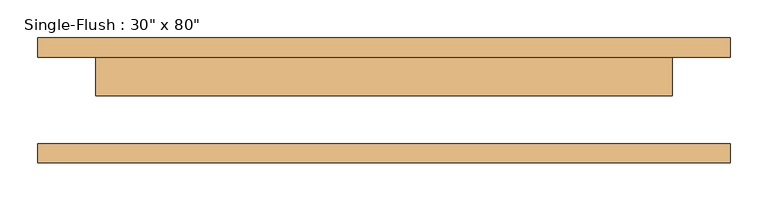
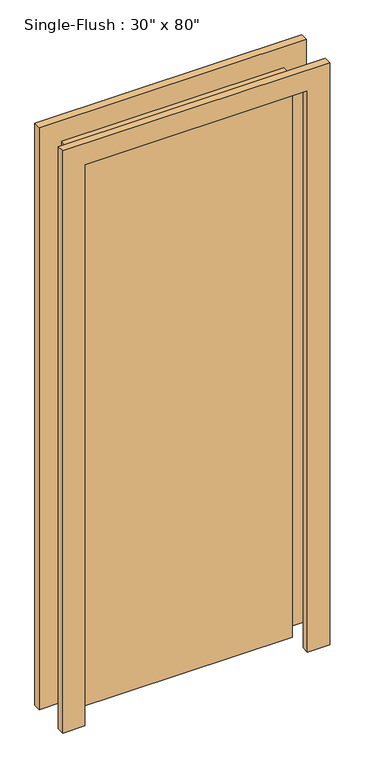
"""IFC4 building model written with IfcOpenShell, lengths in millimetres: door geometry."""

import ifcopenshell
import ifcopenshell.guid

model = None  # the IFC model being written
_history = None  # IfcOwnerHistory: only IFC2X3 demands one
_inside = {}  # id of a spatial element -> (the spatial element, [elements in it])
_under = {}  # id of a project, library or spatial element -> (it, [spatial elements below it])
_declared = {}  # id of a project -> (the project, [libraries it declares])
_typed = {}  # id of a type object -> (the type object, [elements of that type])
_made_of = {}  # id of a material, layer set ... -> (it, [elements and type objects made of it])


def new_model(schema):
    """Start an empty IFC model of exactly this schema.

    Asked for "IFC4X3", IfcOpenShell would pick the latest addendum, in which some entities
    have other attributes; the version numbers below select the first issue.
    IFC2X3 requires an IfcOwnerHistory on every rooted entity: one is made here for all.
    """
    global model, _history
    if schema == "IFC4X3":
        model = ifcopenshell.file(schema_version=(4, 3, 0, 0))
    else:
        model = ifcopenshell.file(schema=schema)
    _inside.clear()
    _under.clear()
    _declared.clear()
    _typed.clear()
    _made_of.clear()
    _history = None
    if model.schema == "IFC2X3":
        org = make("IfcOrganization", Name="unknown")
        user = make(
            "IfcPersonAndOrganization",
            ThePerson=make("IfcPerson", FamilyName="unknown"),
            TheOrganization=org,
        )
        app = make(
            "IfcApplication",
            ApplicationDeveloper=org,
            Version="unknown",
            ApplicationFullName="unknown",
            ApplicationIdentifier="unknown",
        )
        _history = make(
            "IfcOwnerHistory",
            OwningUser=user,
            OwningApplication=app,
            ChangeAction="ADDED",
            CreationDate=0,
        )
    return model


def make(cls, **values):
    """One entity of the class cls with the attributes given. An attribute that is None is left unset."""
    return model.create_entity(
        cls, **{name: value for name, value in values.items() if value is not None}
    )


def rooted(cls, **values):
    """An entity with a GlobalId (a new one), such as an element, a storey or a relation."""
    return make(cls, GlobalId=ifcopenshell.guid.new(), OwnerHistory=_history, **values)


def si_unit(unit_type, name, prefix=None):
    """IfcSIUnit, for example si_unit("LENGTHUNIT", "METRE", prefix="MILLI")."""
    return make("IfcSIUnit", UnitType=unit_type, Prefix=prefix, Name=name)


def assignment(units):
    """IfcUnitAssignment: the units of a project."""
    return None if units is None else make("IfcUnitAssignment", Units=units)


def point(xyz):
    """IfcCartesianPoint."""
    return None if xyz is None else make("IfcCartesianPoint", Coordinates=xyz)


def direction(xyz):
    """IfcDirection."""
    return None if xyz is None else make("IfcDirection", DirectionRatios=xyz)


def frame(location, z_axis=None, x_axis=None):
    """IfcAxis2Placement3D, a coordinate frame: its origin and axes. An axis left out is left unset."""
    return make(
        "IfcAxis2Placement3D",
        Location=point(location),
        Axis=direction(z_axis),
        RefDirection=direction(x_axis),
    )


def origin():
    """The frame at (0, 0, 0) with its axes left unset."""
    return frame((0.0, 0.0, 0.0))


def origin_with_axes():
    """The frame at (0, 0, 0) with the z axis (0, 0, 1) and the x axis (1, 0, 0) written out."""
    return frame((0.0, 0.0, 0.0), z_axis=(0.0, 0.0, 1.0), x_axis=(1.0, 0.0, 0.0))


def place(relative_to, where):
    """IfcLocalPlacement: puts the frame where relative to a parent placement (None: the world)."""
    return make(
        "IfcLocalPlacement", PlacementRelTo=relative_to, RelativePlacement=where
    )


def context(
    kind, dimensions, precision=None, world=None, true_north=None, identifier=None
):
    """IfcGeometricRepresentationContext, for example the 3D "Model" context."""
    return make(
        "IfcGeometricRepresentationContext",
        ContextIdentifier=identifier,
        ContextType=kind,
        CoordinateSpaceDimension=dimensions,
        Precision=precision,
        WorldCoordinateSystem=world,
        TrueNorth=true_north,
    )


def project(units=None, contexts=None):
    """IfcProject with its units and contexts."""
    return rooted(
        "IfcProject",
        Name="project",
        RepresentationContexts=contexts,
        UnitsInContext=assignment(units),
    )


def spatial(cls, under=None, at=None, **own):
    """A site, building, storey or space (cls), placed at a placement, below another one or the project."""
    s = rooted(cls, ObjectPlacement=at, **own)
    if under is not None:
        _under.setdefault(under.id(), (under, []))[1].append(s)
    return s


def polyline(points):
    """IfcPolyline through the points."""
    return make("IfcPolyline", Points=[point(p) for p in points])


def outline(outer, holes=None, kind="AREA"):
    """IfcArbitraryClosedProfileDef: a profile drawn as a closed curve; with holes, ...WithVoids."""
    if holes is None:
        return make("IfcArbitraryClosedProfileDef", ProfileType=kind, OuterCurve=outer)
    return make(
        "IfcArbitraryProfileDefWithVoids",
        ProfileType=kind,
        OuterCurve=outer,
        InnerCurves=holes,
    )


def extrude(swept, where, along, depth):
    """IfcExtrudedAreaSolid: the profile swept, set in the frame where, extruded along a direction by depth."""
    return make(
        "IfcExtrudedAreaSolid",
        SweptArea=swept,
        Position=where,
        ExtrudedDirection=direction(along),
        Depth=depth,
    )


def shape(context_of_items, identifier, shape_type, items):
    """IfcShapeRepresentation: the items that make up one representation, for example the "Body"."""
    return make(
        "IfcShapeRepresentation",
        ContextOfItems=context_of_items,
        RepresentationIdentifier=identifier,
        RepresentationType=shape_type,
        Items=items,
    )


def source(mapping_origin, context_of_items, identifier, shape_type, items):
    """IfcRepresentationMap: a shape defined once, which mapped items show again and again."""
    return make(
        "IfcRepresentationMap",
        MappingOrigin=mapping_origin,
        MappedRepresentation=shape(context_of_items, identifier, shape_type, items),
    )


def transform(
    local_origin,
    x_axis=None,
    y_axis=None,
    z_axis=None,
    scale=None,
    scale2=None,
    scale3=None,
    uniform=True,
):
    """IfcCartesianTransformationOperator3D, or its non-uniform kind. x_axis, y_axis, z_axis: its Axis1, 2, 3."""
    if uniform:
        return make(
            "IfcCartesianTransformationOperator3D",
            Axis1=direction(x_axis),
            Axis2=direction(y_axis),
            LocalOrigin=point(local_origin),
            Scale=scale,
            Axis3=direction(z_axis),
        )
    return make(
        "IfcCartesianTransformationOperator3DnonUniform",
        Axis1=direction(x_axis),
        Axis2=direction(y_axis),
        LocalOrigin=point(local_origin),
        Scale=scale,
        Axis3=direction(z_axis),
        Scale2=scale2,
        Scale3=scale3,
    )


def mapped(mapping_source, mapping_target):
    """IfcMappedItem: shows the shape of a source again, moved by a transform."""
    return make(
        "IfcMappedItem", MappingSource=mapping_source, MappingTarget=mapping_target
    )


def made_of(thing, what):
    """Note that an element or type object is made of a material, layer set ...; save() writes the relation."""
    if what is not None:
        _made_of.setdefault(what.id(), (what, []))[1].append(thing)
    return thing


def element(
    cls,
    number,
    at=None,
    inside=None,
    cuts=None,
    type_object=None,
    material=None,
    context=None,
    identifier="Body",
    shape_type=None,
    held_by="IfcProductDefinitionShape",
    body=None,
    shapes=None,
    **own,
):
    """One element of the class cls, such as IfcWall. Its Tag is "e" and its number.

    at: its placement. inside: the storey or other place that contains it. cuts: it is an
    opening in that element (IfcRelVoidsElement). A single representation is given by context,
    identifier, shape_type and body (its items); several are given by shapes. held_by: the class
    of the entity that holds the representations. save() writes the other relations.
    """
    e = rooted(cls, Tag="e%d" % number, ObjectPlacement=at, **own)
    if body is not None:
        shapes = [shape(context, identifier, shape_type, body)]
    if shapes is not None:
        e.Representation = make(held_by, Representations=shapes)
    if inside is not None:
        _inside.setdefault(inside.id(), (inside, []))[1].append(e)
    if cuts is not None:
        rooted(
            "IfcRelVoidsElement", RelatingBuildingElement=cuts, RelatedOpeningElement=e
        )
    if type_object is not None:
        _typed.setdefault(type_object.id(), (type_object, []))[1].append(e)
    return made_of(e, material)


def aggregate(whole, parts):
    """IfcRelAggregates: a whole, such as a stair, and the parts it consists of."""
    return rooted("IfcRelAggregates", RelatingObject=whole, RelatedObjects=parts)


def save(model, path):
    """Write the relations noted so far, then the file.

    IfcRelAggregates (storeys below a building ...), IfcRelContainedInSpatialStructure (elements
    in a storey), IfcRelDefinesByType, IfcRelAssociatesMaterial and IfcRelDeclares: one each for
    every whole, place, type object, material and project.
    """
    for whole, parts in _under.values():
        aggregate(whole, parts)
    for where, things in _inside.values():
        rooted(
            "IfcRelContainedInSpatialStructure",
            RelatedElements=things,
            RelatingStructure=where,
        )
    for kind, things in _typed.values():
        rooted("IfcRelDefinesByType", RelatedObjects=things, RelatingType=kind)
    for what, things in _made_of.values():
        rooted("IfcRelAssociatesMaterial", RelatedObjects=things, RelatingMaterial=what)
    for by, libraries in _declared.values():
        rooted("IfcRelDeclares", RelatingContext=by, RelatedDefinitions=libraries)
    model.write(path)


def door_d8f5dbb5(model_context):
    return source(origin(), model_context, "Body", "SweptSolid", [
        extrude(outline(polyline([(2108.2, -457.2), (0.0, -457.2), (0.0, -381.0), (2032.0, -381.0), (2032.0, 381.0), (0.0, 381.0), (0.0, 457.2), (2108.2, 457.2), (2108.2, -457.2)])), frame((0.0, 57.15, 0.0), z_axis=(0.0, 1.0, 0.0), x_axis=(0.0, 0.0, 1.0)), (0.0, 0.0, 1.0), 25.4),
        extrude(outline(polyline([(2108.2, 457.2), (2108.2, -457.2), (0.0, -457.2), (0.0, -381.0), (2032.0, -381.0), (2032.0, 381.0), (0.0, 381.0), (0.0, 457.2), (2108.2, 457.2)])), frame((0.0, -82.55, 0.0), z_axis=(0.0, 1.0, 0.0), x_axis=(0.0, 0.0, 1.0)), (0.0, 0.0, 1.0), 25.4),
        extrude(outline(polyline([(381.0, 6.35), (-381.0, 6.35), (-381.0, 57.15), (381.0, 57.15), (381.0, 6.35)])), origin_with_axes(), (0.0, 0.0, 1.0), 2032.0),
    ])


if __name__ == "__main__":
    model = new_model("IFC4")
    model_context = context("Model", 3, world=origin())
    ifc_project = project(units=[si_unit("LENGTHUNIT", "METRE", prefix="MILLI")], contexts=[model_context])
    site = spatial("IfcSite", under=ifc_project)
    building = spatial("IfcBuilding", under=site)
    placement = place(None, origin())
    door_shape = door_d8f5dbb5(model_context)
    element("IfcDoor", 1, ObjectType="Single-Flush : 30\" x 80\"", at=placement, inside=building, context=model_context, shape_type="MappedRepresentation", body=[
        mapped(door_shape, transform((0.0, 0.0, 0.0), x_axis=(1.0, 0.0, 0.0), y_axis=(0.0, 1.0, 0.0), z_axis=(0.0, 0.0, 1.0))),
    ])
    save(model, "model.ifc")
